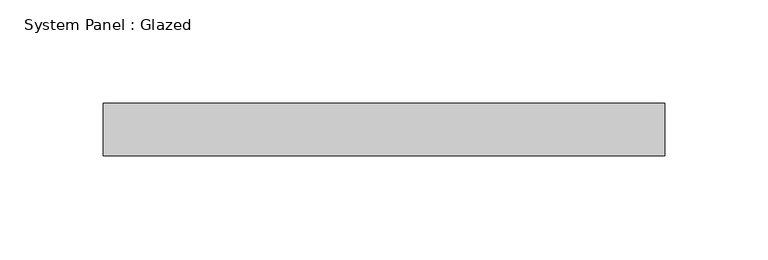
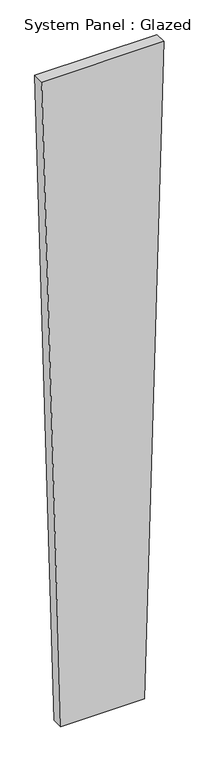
"""IFC4 building model written with IfcOpenShell, lengths in millimetres: plate geometry, System Panel : Glazed."""

from ifc_helpers import new_model, si_unit, frame, origin, place, context, project, spatial, polyline, outline, extrude, source, transform, mapped, element, save


def system_panel_glazed_07e92868(model_context):
    return source(origin(), model_context, "Body", "SweptSolid", [
        extrude(outline(polyline([(0.0, -92.6357122), (0.0, 92.6357122), (1523.3930228, 135.6438304), (1523.3930228, -135.6438304), (0.0, -92.6357122)])), frame((0.0, -44.45, 0.0), z_axis=(0.0, 1.0, 0.0), x_axis=(0.0, 0.0, 1.0)), (0.0, 0.0, 1.0), 25.4),
    ])


if __name__ == "__main__":
    model = new_model("IFC4")
    model_context = context("Model", 3, world=origin())
    ifc_project = project(units=[si_unit("LENGTHUNIT", "METRE", prefix="MILLI")], contexts=[model_context])
    site = spatial("IfcSite", under=ifc_project)
    building = spatial("IfcBuilding", under=site)
    placement = place(None, origin())
    system_panel_glazed_shape = system_panel_glazed_07e92868(model_context)
    element("IfcPlate", 1, ObjectType="System Panel : Glazed", at=placement, inside=building, context=model_context, shape_type="MappedRepresentation", body=[
        mapped(system_panel_glazed_shape, transform((0.0, 0.0, 0.0), x_axis=(1.0, 0.0, 0.0), y_axis=(0.0, 1.0, 0.0), z_axis=(0.0, 0.0, 1.0))),
    ])
    save(model, "model.ifc")
